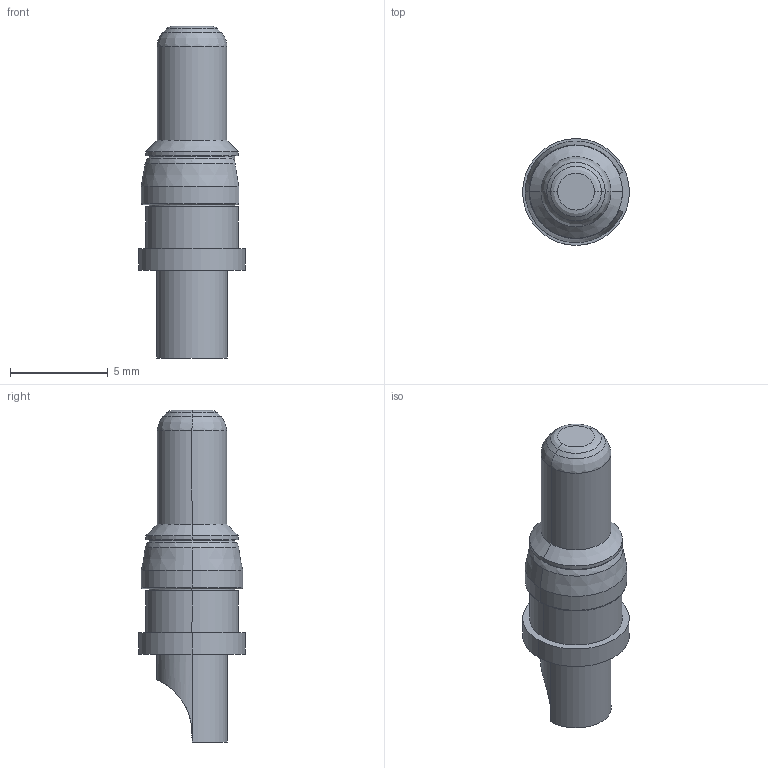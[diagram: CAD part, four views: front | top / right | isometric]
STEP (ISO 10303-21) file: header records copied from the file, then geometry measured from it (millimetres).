
FILE_DESCRIPTION(/* description */ (''),/* implementation_level */ '2;1');
FILE_NAME(/* name */ '100223291ugm000_b.stp',/* time_stamp */ '2015-11-05T03:42:09+01:00',/* author */ (''),/* organization */ (''),/* preprocessor_version */ 'ST-DEVELOPER v15',/* originating_system */ 'SIEMENS PLM Software NX 8.5',/* authorisation */ '');
FILE_SCHEMA (('AUTOMOTIVE_DESIGN { 1 0 10303 214 3 1 1 1 }'));
Length unit declared in the file: millimetre
Products named in the file (1): 100223291ugm000_b
Bounding box: 5.47 x 5.47 x 17 mm (x, y, z)
Volume: 200.5 mm3; surface area: 278.9 mm2
Topology: 1 solids, 1 shells, 45 faces, 101 edges, 62 vertices
Faces by surface type: cylinder 14, plane 12, cone 8, revolution 6, bspline 5
Entity records: 1773 total; most frequent: CARTESIAN_POINT 484, DIRECTION 232, ORIENTED_EDGE 202, EDGE_CURVE 101, AXIS2_PLACEMENT_3D 92, VERTEX_POINT 62, CIRCLE 57, EDGE_LOOP 49
